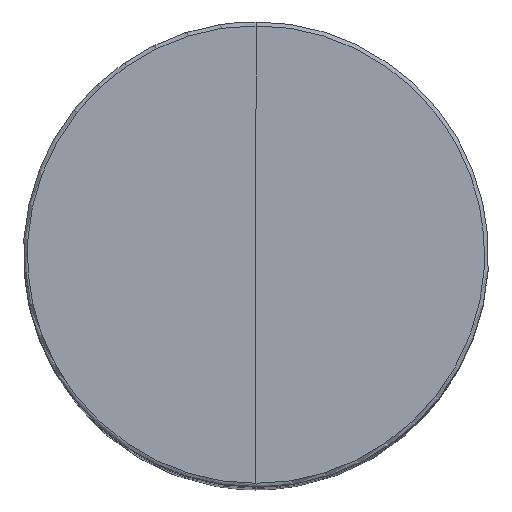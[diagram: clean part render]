
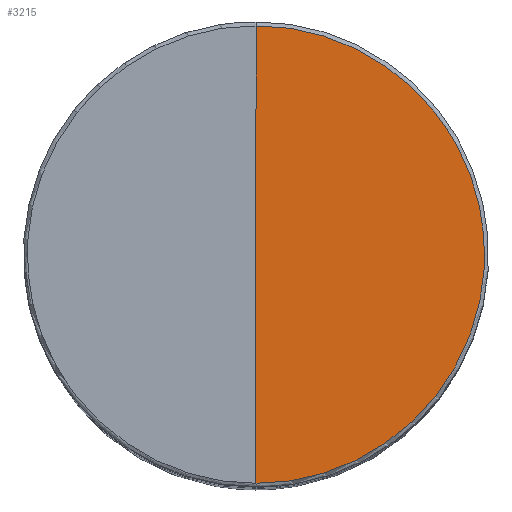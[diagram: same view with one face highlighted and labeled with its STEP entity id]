
A CAD part, top view. The second image highlights one B-rep face of the part: STEP entity #3215.
In plain terms, the highlighted planar face has unit normal (0, 0, 1).
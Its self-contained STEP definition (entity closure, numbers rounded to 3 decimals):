
#60=B_SPLINE_CURVE_WITH_KNOTS('',3,(#5694,#5695,#5696,#5697),
 .UNSPECIFIED.,.F.,.F.,(4,4),(0.,0.143),.UNSPECIFIED.);
#64=B_SPLINE_CURVE_WITH_KNOTS('',3,(#5822,#5823,#5824,#5825),
 .UNSPECIFIED.,.F.,.F.,(4,4),(0.857,1.),.UNSPECIFIED.);
#65=B_SPLINE_CURVE_WITH_KNOTS('',3,(#5827,#5828,#5829,#5830),
 .UNSPECIFIED.,.F.,.F.,(4,4),(0.714,0.857),
 .UNSPECIFIED.);
#66=B_SPLINE_CURVE_WITH_KNOTS('',3,(#5832,#5833,#5834,#5835,#5836,#5837),
 .UNSPECIFIED.,.F.,.F.,(4,1,1,4),(0.286,0.429,0.571,
0.714),.UNSPECIFIED.);
#67=B_SPLINE_CURVE_WITH_KNOTS('',3,(#5838,#5839,#5840,#5841),
 .UNSPECIFIED.,.F.,.F.,(4,4),(0.143,0.286),
 .UNSPECIFIED.);
#539=FACE_OUTER_BOUND('',#741,.T.);
#741=EDGE_LOOP('',(#2913,#2914,#2915,#2916,#2917,#2918));
#993=LINE('',#6295,#1244);
#1244=VECTOR('',#4473,304.8);
#1487=VERTEX_POINT('',#5692);
#1488=VERTEX_POINT('',#5693);
#1491=VERTEX_POINT('',#5765);
#1492=VERTEX_POINT('',#5821);
#1493=VERTEX_POINT('',#5826);
#1494=VERTEX_POINT('',#5831);
#1929=EDGE_CURVE('',#1487,#1488,#60,.T.);
#1933=EDGE_CURVE('',#1492,#1491,#64,.T.);
#1934=EDGE_CURVE('',#1493,#1492,#65,.T.);
#1935=EDGE_CURVE('',#1494,#1493,#66,.T.);
#1936=EDGE_CURVE('',#1488,#1494,#67,.T.);
#1996=EDGE_CURVE('',#1487,#1491,#993,.T.);
#2913=ORIENTED_EDGE('',*,*,#1996,.F.);
#2914=ORIENTED_EDGE('',*,*,#1929,.T.);
#2915=ORIENTED_EDGE('',*,*,#1936,.T.);
#2916=ORIENTED_EDGE('',*,*,#1935,.T.);
#2917=ORIENTED_EDGE('',*,*,#1934,.T.);
#2918=ORIENTED_EDGE('',*,*,#1933,.T.);
#3023=PLANE('',#3556);
#3215=ADVANCED_FACE('',(#539),#3023,.T.);
#3556=AXIS2_PLACEMENT_3D('',#6294,#4471,#4472);
#4471=DIRECTION('center_axis',(0.,0.,1.));
#4472=DIRECTION('ref_axis',(0.,1.,0.));
#4473=DIRECTION('',(0.,1.,0.));
#5692=CARTESIAN_POINT('',(0.,-59.464,700.));
#5693=CARTESIAN_POINT('',(25.801,-53.576,700.));
#5694=CARTESIAN_POINT('Ctrl Pts',(0.,-59.464,
700.));
#5695=CARTESIAN_POINT('Ctrl Pts',(8.957,-59.594,700.));
#5696=CARTESIAN_POINT('Ctrl Pts',(17.804,-57.469,700.));
#5697=CARTESIAN_POINT('Ctrl Pts',(25.801,-53.576,700.));
#5765=CARTESIAN_POINT('',(0.,59.464,700.));
#5821=CARTESIAN_POINT('',(25.801,53.576,700.));
#5822=CARTESIAN_POINT('Ctrl Pts',(25.801,53.576,700.));
#5823=CARTESIAN_POINT('Ctrl Pts',(17.804,57.469,700.));
#5824=CARTESIAN_POINT('Ctrl Pts',(8.957,59.594,700.));
#5825=CARTESIAN_POINT('Ctrl Pts',(0.,59.464,
700.));
#5826=CARTESIAN_POINT('',(46.491,37.075,700.));
#5827=CARTESIAN_POINT('Ctrl Pts',(46.491,37.075,700.));
#5828=CARTESIAN_POINT('Ctrl Pts',(40.941,44.02,700.));
#5829=CARTESIAN_POINT('Ctrl Pts',(33.797,49.682,700.));
#5830=CARTESIAN_POINT('Ctrl Pts',(25.801,53.576,700.));
#5831=CARTESIAN_POINT('',(46.491,-37.075,700.));
#5832=CARTESIAN_POINT('Ctrl Pts',(46.491,-37.075,700.));
#5833=CARTESIAN_POINT('Ctrl Pts',(52.041,-30.131,700.));
#5834=CARTESIAN_POINT('Ctrl Pts',(59.951,-13.678,700.));
#5835=CARTESIAN_POINT('Ctrl Pts',(59.951,13.678,700.));
#5836=CARTESIAN_POINT('Ctrl Pts',(52.041,30.131,700.));
#5837=CARTESIAN_POINT('Ctrl Pts',(46.491,37.075,700.));
#5838=CARTESIAN_POINT('Ctrl Pts',(25.801,-53.576,700.));
#5839=CARTESIAN_POINT('Ctrl Pts',(33.797,-49.682,700.));
#5840=CARTESIAN_POINT('Ctrl Pts',(40.941,-44.02,700.));
#5841=CARTESIAN_POINT('Ctrl Pts',(46.491,-37.075,700.));
#6294=CARTESIAN_POINT('Origin',(0.,0.,700.));
#6295=CARTESIAN_POINT('',(0.,-59.464,700.));
